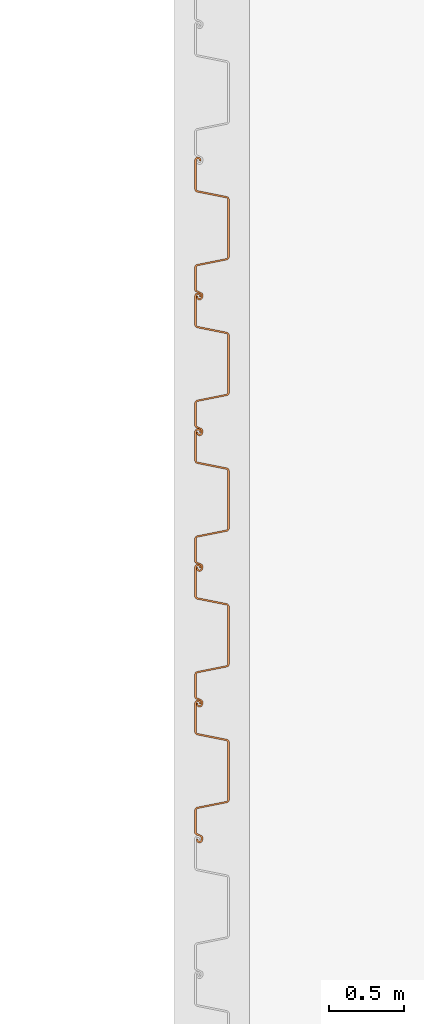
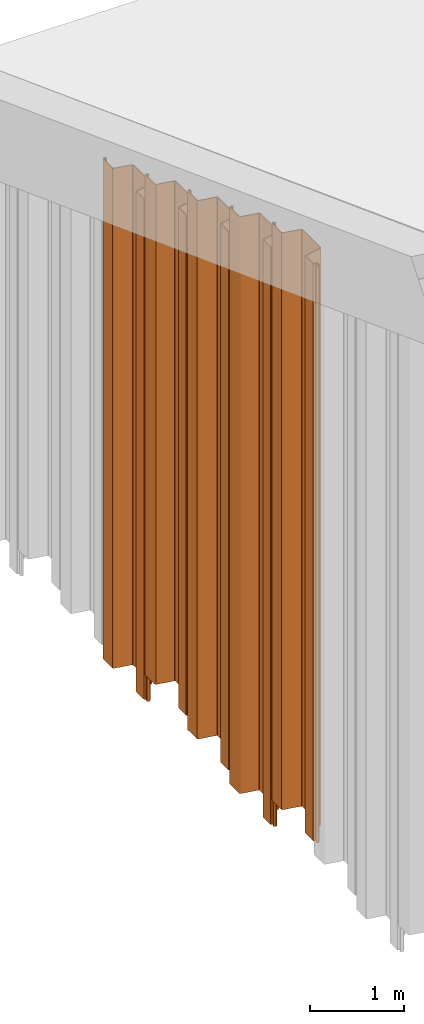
# One storey, part 12 of 15: 5 proxies.
"""IFC2X3 building model written with IfcOpenShell, lengths in millimetres."""

from ifc_helpers import new_model, entity, si_unit, converted_unit, derived_unit, direction, frame, frame_2d, origin, place, context, subcontext, project, spatial, polyline, circle_curve, parameter, trimmed, segment, composite_curve, outline, extrude, source, transform, mapped, material, type_object, type_shapes, element, save


model = new_model("IFC2X3")

# Units and contexts
model_context = context("Model", 3, precision=0.01, world=origin(), true_north=direction((6.12303176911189e-17, 1.0)))
body_context = subcontext(model_context, "Body", "Model", "MODEL_VIEW")
ifc_project = project(units=[si_unit("LENGTHUNIT", "METRE", prefix="MILLI"), si_unit("AREAUNIT", "SQUARE_METRE"), si_unit("VOLUMEUNIT", "CUBIC_METRE"), converted_unit("PLANEANGLEUNIT", "DEGREE", entity("IfcRatioMeasure", 0.0174532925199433), si_unit("PLANEANGLEUNIT", "RADIAN"), dimensions=[0, 0, 0, 0, 0, 0, 0]), si_unit("MASSUNIT", "GRAM", prefix="KILO"), derived_unit("MASSDENSITYUNIT", [(si_unit("MASSUNIT", "GRAM", prefix="KILO"), 1), (si_unit("LENGTHUNIT", "METRE"), -3)]), derived_unit("MOMENTOFINERTIAUNIT", [(si_unit("LENGTHUNIT", "METRE"), 4)]), si_unit("TIMEUNIT", "SECOND"), si_unit("FREQUENCYUNIT", "HERTZ"), si_unit("THERMODYNAMICTEMPERATUREUNIT", "DEGREE_CELSIUS"), derived_unit("THERMALTRANSMITTANCEUNIT", [(si_unit("MASSUNIT", "GRAM", prefix="KILO"), 1), (si_unit("THERMODYNAMICTEMPERATUREUNIT", "KELVIN"), -1), (si_unit("TIMEUNIT", "SECOND"), -3)]), derived_unit("VOLUMETRICFLOWRATEUNIT", [(si_unit("LENGTHUNIT", "METRE"), 3), (si_unit("TIMEUNIT", "SECOND"), -1)]), si_unit("ELECTRICCURRENTUNIT", "AMPERE"), si_unit("ELECTRICVOLTAGEUNIT", "VOLT"), si_unit("POWERUNIT", "WATT"), si_unit("FORCEUNIT", "NEWTON", prefix="KILO"), si_unit("ILLUMINANCEUNIT", "LUX"), si_unit("LUMINOUSFLUXUNIT", "LUMEN"), si_unit("LUMINOUSINTENSITYUNIT", "CANDELA"), derived_unit("USERDEFINED", [(si_unit("MASSUNIT", "GRAM", prefix="KILO"), -1), (si_unit("LENGTHUNIT", "METRE"), -2), (si_unit("TIMEUNIT", "SECOND"), 3), (si_unit("LUMINOUSFLUXUNIT", "LUMEN"), 1)]), derived_unit("LINEARVELOCITYUNIT", [(si_unit("LENGTHUNIT", "METRE"), 1), (si_unit("TIMEUNIT", "SECOND"), -1)]), si_unit("PRESSUREUNIT", "PASCAL"), derived_unit("USERDEFINED", [(si_unit("LENGTHUNIT", "METRE"), -2), (si_unit("MASSUNIT", "GRAM", prefix="KILO"), 1), (si_unit("TIMEUNIT", "SECOND"), -2)]), derived_unit("LINEARFORCEUNIT", [(si_unit("MASSUNIT", "GRAM", prefix="KILO"), 1), (si_unit("LENGTHUNIT", "METRE"), 1), (si_unit("TIMEUNIT", "SECOND"), -2), (si_unit("LENGTHUNIT", "METRE"), -1)]), derived_unit("PLANARFORCEUNIT", [(si_unit("MASSUNIT", "GRAM", prefix="KILO"), 1), (si_unit("LENGTHUNIT", "METRE"), 1), (si_unit("TIMEUNIT", "SECOND"), -2), (si_unit("LENGTHUNIT", "METRE"), -2)])], contexts=[model_context])

# Site, building, storey
site_placement = place(None, origin())
site = spatial("IfcSite", under=ifc_project, at=site_placement, Name="Default", CompositionType="ELEMENT")
building_placement = place(site_placement, origin())
building = spatial("IfcBuilding", under=site, at=building_placement, CompositionType="ELEMENT")
storey_placement = place(building_placement, frame((0.0, 0.0, 9500.0)))
storey = spatial("IfcBuildingStorey", under=building, at=storey_placement, Name="AP+9.500", CompositionType="ELEMENT", Elevation=9500.0)

# Proxies
ifc_material = material(Name="<Unnamed>")
building_element_proxy_type_1 = type_object("IfcBuildingElementProxyType", Name="鋼矢板10H型:鋼矢板10H型", PredefinedType="NOTDEFINED", material=ifc_material)
shared_shape_1 = source(origin(), body_context, "Body", "SweptSolid", [
    extrude(outline(composite_curve([segment(trimmed(circle_curve(frame_2d((85.3662976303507, 306.644432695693), x_axis=(0.422618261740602, 0.906307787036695)), 13.885714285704), [parameter(24.9999999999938)], [parameter(90.0000000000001)], True, "PARAMETER"), True, "CONTINUOUS"), segment(polyline([(72.7815666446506, 312.512789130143), (9.8129512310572, 177.476157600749)]), True, "CONTINUOUS"), segment(trimmed(circle_curve(frame_2d((29.3891994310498, 168.347603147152), x_axis=(0.422618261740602, 0.906307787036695)), 21.6), [parameter(90.0000000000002)], [parameter(168.69006752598)], True, "PARAMETER"), True, "CONTINUOUS"), segment(polyline([(16.598697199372, 150.941769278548), (175.329723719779, 34.2998683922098)]), True, "CONTINUOUS"), segment(trimmed(circle_curve(frame_2d((168.93447260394, 25.596951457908), x_axis=(0.422618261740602, 0.906307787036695)), 10.7999999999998), [parameter(270.0)], [parameter(348.690067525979)], True, "PARAMETER"), False, "CONTINUOUS"), segment(polyline([(178.722596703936, 21.0326742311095), (18.2974003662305, -323.000269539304)]), True, "CONTINUOUS"), segment(trimmed(circle_curve(frame_2d((8.50927626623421, -318.435992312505), x_axis=(0.422618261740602, 0.906307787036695)), 10.8), [parameter(191.30993247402)], [parameter(269.999999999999)], True, "PARAMETER"), False, "CONTINUOUS"), segment(polyline([(5.95324328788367, -328.929166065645), (-185.429973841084, -282.310113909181)]), True, "CONTINUOUS"), segment(trimmed(circle_curve(frame_2d((-190.542039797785, -303.296461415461), x_axis=(0.422618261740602, 0.906307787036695)), 21.6000000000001), [parameter(11.3099324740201)], [parameter(90.0000000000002)], True, "PARAMETER"), True, "CONTINUOUS"), segment(polyline([(-210.118287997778, -294.167906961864), (-290.330886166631, -466.184378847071)]), True, "CONTINUOUS"), segment(trimmed(circle_curve(frame_2d((-270.754637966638, -475.312933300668), x_axis=(0.422618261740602, 0.906307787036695)), 21.6), [parameter(90.0000000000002)], [parameter(269.999999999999)], True, "PARAMETER"), True, "CONTINUOUS"), segment(polyline([(-251.178389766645, -484.441487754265), (-249.065298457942, -479.909948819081)]), True, "CONTINUOUS"), segment(polyline([(-249.065298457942, -479.909948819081), (-258.853422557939, -475.345671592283)]), True, "CONTINUOUS"), segment(polyline([(-258.853422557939, -475.345671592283), (-260.966513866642, -479.877210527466)]), True, "CONTINUOUS"), segment(trimmed(circle_curve(frame_2d((-270.754637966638, -475.312933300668), x_axis=(0.422618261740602, 0.906307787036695)), 10.8), [parameter(90.0000000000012)], [parameter(270.0)], True, "PARAMETER"), False, "CONTINUOUS"), segment(polyline([(-280.542762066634, -470.748656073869), (-200.330163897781, -298.732184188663)]), True, "CONTINUOUS"), segment(trimmed(circle_curve(frame_2d((-190.542039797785, -303.296461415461), x_axis=(0.422618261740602, 0.906307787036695)), 10.8), [parameter(11.3099324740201)], [parameter(89.9999999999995)], True, "PARAMETER"), False, "CONTINUOUS"), segment(polyline([(-187.986006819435, -292.803287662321), (3.39721030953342, -339.422339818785)]), True, "CONTINUOUS"), segment(trimmed(circle_curve(frame_2d((8.50927626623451, -318.435992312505), x_axis=(0.422618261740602, 0.906307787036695)), 21.6), [parameter(191.30993247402)], [parameter(270.0)], True, "PARAMETER"), True, "CONTINUOUS"), segment(polyline([(28.0855244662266, -327.564546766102), (188.510720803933, 16.4683970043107)]), True, "CONTINUOUS"), segment(trimmed(circle_curve(frame_2d((168.93447260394, 25.5969514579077), x_axis=(0.422618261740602, 0.906307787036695)), 21.6), [parameter(270.0)], [parameter(348.69006752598)], True, "PARAMETER"), True, "CONTINUOUS"), segment(polyline([(181.724974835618, 43.0027853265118), (22.9939483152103, 159.644686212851)]), True, "CONTINUOUS"), segment(trimmed(circle_curve(frame_2d((29.3891994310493, 168.347603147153), x_axis=(0.422618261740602, 0.906307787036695)), 10.7999999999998), [parameter(89.9999999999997)], [parameter(168.690067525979)], True, "PARAMETER"), False, "CONTINUOUS"), segment(polyline([(19.6010753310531, 172.911880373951), (82.5696907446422, 307.948511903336)]), True, "CONTINUOUS"), segment(trimmed(circle_curve(frame_2d((85.3662976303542, 306.64443269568), x_axis=(0.422618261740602, 0.906307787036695)), 3.08571428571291), [parameter(25.0000000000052)], [parameter(90.0000000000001)], True, "PARAMETER"), False, "CONTINUOUS"), segment(polyline([(85.3662976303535, 309.730146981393), (122.220231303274, 309.730146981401)]), True, "CONTINUOUS"), segment(trimmed(circle_curve(frame_2d((122.220231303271, 323.615861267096), x_axis=(0.422618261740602, 0.906307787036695)), 13.8857142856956), [parameter(205.000000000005)], [parameter(270.0)], True, "PARAMETER"), True, "CONTINUOUS"), segment(polyline([(134.804962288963, 317.747504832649), (141.079261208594, 331.202782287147)]), True, "CONTINUOUS"), segment(trimmed(circle_curve(frame_2d((121.503013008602, 340.331336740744), x_axis=(0.422618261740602, 0.906307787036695)), 21.6), [parameter(270.0)], [parameter(90.0000000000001)], True, "PARAMETER"), True, "CONTINUOUS"), segment(polyline([(101.926764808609, 349.459891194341), (99.8136734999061, 344.928352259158)]), True, "CONTINUOUS"), segment(polyline([(99.8136734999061, 344.928352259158), (109.601797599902, 340.364075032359)]), True, "CONTINUOUS"), segment(polyline([(109.601797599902, 340.364075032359), (111.714888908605, 344.895613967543)]), True, "CONTINUOUS"), segment(trimmed(circle_curve(frame_2d((121.503013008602, 340.331336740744), x_axis=(0.422618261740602, 0.906307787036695)), 10.8), [parameter(270.0)], [parameter(89.9999999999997)], True, "PARAMETER"), False, "CONTINUOUS"), segment(polyline([(131.291137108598, 335.767059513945), (125.01683818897, 322.311782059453)]), True, "CONTINUOUS"), segment(trimmed(circle_curve(frame_2d((122.220231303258, 323.615861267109), x_axis=(0.422618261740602, 0.906307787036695)), 3.08571428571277), [parameter(204.999999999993)], [parameter(270.0)], True, "PARAMETER"), False, "CONTINUOUS"), segment(polyline([(122.220231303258, 320.530146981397), (85.3662976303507, 320.530146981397)]), True, "CONTINUOUS")], self_intersect=False)), frame((95.205667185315, -48.8888888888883, -6500.0), z_axis=(0.0, 0.0, -1.0), x_axis=(0.4226182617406, 0.906307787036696, 0.0)), (0.0, 0.0, -1.0), 6500.0),
])
type_shapes(building_element_proxy_type_1, [shared_shape_1])
for number, where, z_axis, x_axis in (
    (1, (89754.0, 18505.0, 2490.17384934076), (0.0, 0.0, 1.0), (0.0, -1.0, 0.0)),
    (2, (89754.0, 17605.0, 2826.31787385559), (0.0, 0.0, 1.0), (0.0, -1.0, 0.0)),
):
    element("IfcBuildingElementProxy", number, at=place(storey_placement, frame(where, z_axis=z_axis, x_axis=x_axis)), inside=storey, type_object=building_element_proxy_type_1, material=ifc_material, Name="鋼矢板10H型:鋼矢板10H型", ObjectType="鋼矢板10H型:鋼矢板10H型", context=body_context, shape_type="MappedRepresentation", body=[
        mapped(shared_shape_1, transform((0.0, 0.0, 0.0), scale=1.0)),
    ])
building_element_proxy_type_2 = type_object("IfcBuildingElementProxyType", Name="鋼矢板10H型:鋼矢板10H型", PredefinedType="NOTDEFINED", material=ifc_material)
shared_shape_2 = source(origin(), body_context, "Body", "SweptSolid", [
    extrude(outline(composite_curve([segment(trimmed(circle_curve(frame_2d((85.3662976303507, 306.644432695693), x_axis=(0.422618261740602, 0.906307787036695)), 13.885714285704), [parameter(24.9999999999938)], [parameter(90.0000000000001)], True, "PARAMETER"), True, "CONTINUOUS"), segment(polyline([(72.7815666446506, 312.512789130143), (9.8129512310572, 177.476157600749)]), True, "CONTINUOUS"), segment(trimmed(circle_curve(frame_2d((29.3891994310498, 168.347603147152), x_axis=(0.422618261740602, 0.906307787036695)), 21.6), [parameter(90.0000000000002)], [parameter(168.69006752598)], True, "PARAMETER"), True, "CONTINUOUS"), segment(polyline([(16.598697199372, 150.941769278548), (175.329723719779, 34.2998683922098)]), True, "CONTINUOUS"), segment(trimmed(circle_curve(frame_2d((168.93447260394, 25.596951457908), x_axis=(0.422618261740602, 0.906307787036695)), 10.7999999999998), [parameter(270.0)], [parameter(348.690067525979)], True, "PARAMETER"), False, "CONTINUOUS"), segment(polyline([(178.722596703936, 21.0326742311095), (18.2974003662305, -323.000269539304)]), True, "CONTINUOUS"), segment(trimmed(circle_curve(frame_2d((8.50927626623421, -318.435992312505), x_axis=(0.422618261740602, 0.906307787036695)), 10.8), [parameter(191.30993247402)], [parameter(269.999999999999)], True, "PARAMETER"), False, "CONTINUOUS"), segment(polyline([(5.95324328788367, -328.929166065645), (-185.429973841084, -282.310113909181)]), True, "CONTINUOUS"), segment(trimmed(circle_curve(frame_2d((-190.542039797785, -303.296461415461), x_axis=(0.422618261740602, 0.906307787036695)), 21.6000000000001), [parameter(11.3099324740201)], [parameter(90.0000000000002)], True, "PARAMETER"), True, "CONTINUOUS"), segment(polyline([(-210.118287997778, -294.167906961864), (-290.330886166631, -466.184378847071)]), True, "CONTINUOUS"), segment(trimmed(circle_curve(frame_2d((-270.754637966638, -475.312933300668), x_axis=(0.422618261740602, 0.906307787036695)), 21.6), [parameter(90.0000000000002)], [parameter(269.999999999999)], True, "PARAMETER"), True, "CONTINUOUS"), segment(polyline([(-251.178389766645, -484.441487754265), (-249.065298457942, -479.909948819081)]), True, "CONTINUOUS"), segment(polyline([(-249.065298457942, -479.909948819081), (-258.853422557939, -475.345671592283)]), True, "CONTINUOUS"), segment(polyline([(-258.853422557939, -475.345671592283), (-260.966513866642, -479.877210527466)]), True, "CONTINUOUS"), segment(trimmed(circle_curve(frame_2d((-270.754637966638, -475.312933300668), x_axis=(0.422618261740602, 0.906307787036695)), 10.8), [parameter(90.0000000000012)], [parameter(270.0)], True, "PARAMETER"), False, "CONTINUOUS"), segment(polyline([(-280.542762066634, -470.748656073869), (-200.330163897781, -298.732184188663)]), True, "CONTINUOUS"), segment(trimmed(circle_curve(frame_2d((-190.542039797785, -303.296461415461), x_axis=(0.422618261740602, 0.906307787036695)), 10.8), [parameter(11.3099324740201)], [parameter(89.9999999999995)], True, "PARAMETER"), False, "CONTINUOUS"), segment(polyline([(-187.986006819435, -292.803287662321), (3.39721030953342, -339.422339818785)]), True, "CONTINUOUS"), segment(trimmed(circle_curve(frame_2d((8.50927626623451, -318.435992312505), x_axis=(0.422618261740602, 0.906307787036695)), 21.6), [parameter(191.30993247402)], [parameter(270.0)], True, "PARAMETER"), True, "CONTINUOUS"), segment(polyline([(28.0855244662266, -327.564546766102), (188.510720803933, 16.4683970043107)]), True, "CONTINUOUS"), segment(trimmed(circle_curve(frame_2d((168.93447260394, 25.5969514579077), x_axis=(0.422618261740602, 0.906307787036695)), 21.6), [parameter(270.0)], [parameter(348.69006752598)], True, "PARAMETER"), True, "CONTINUOUS"), segment(polyline([(181.724974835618, 43.0027853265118), (22.9939483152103, 159.644686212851)]), True, "CONTINUOUS"), segment(trimmed(circle_curve(frame_2d((29.3891994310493, 168.347603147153), x_axis=(0.422618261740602, 0.906307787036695)), 10.7999999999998), [parameter(89.9999999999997)], [parameter(168.690067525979)], True, "PARAMETER"), False, "CONTINUOUS"), segment(polyline([(19.6010753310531, 172.911880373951), (82.5696907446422, 307.948511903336)]), True, "CONTINUOUS"), segment(trimmed(circle_curve(frame_2d((85.3662976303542, 306.64443269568), x_axis=(0.422618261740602, 0.906307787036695)), 3.08571428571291), [parameter(25.0000000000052)], [parameter(90.0000000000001)], True, "PARAMETER"), False, "CONTINUOUS"), segment(polyline([(85.3662976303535, 309.730146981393), (122.220231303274, 309.730146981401)]), True, "CONTINUOUS"), segment(trimmed(circle_curve(frame_2d((122.220231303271, 323.615861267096), x_axis=(0.422618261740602, 0.906307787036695)), 13.8857142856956), [parameter(205.000000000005)], [parameter(270.0)], True, "PARAMETER"), True, "CONTINUOUS"), segment(polyline([(134.804962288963, 317.747504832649), (141.079261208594, 331.202782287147)]), True, "CONTINUOUS"), segment(trimmed(circle_curve(frame_2d((121.503013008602, 340.331336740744), x_axis=(0.422618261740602, 0.906307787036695)), 21.6), [parameter(270.0)], [parameter(90.0000000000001)], True, "PARAMETER"), True, "CONTINUOUS"), segment(polyline([(101.926764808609, 349.459891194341), (99.8136734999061, 344.928352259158)]), True, "CONTINUOUS"), segment(polyline([(99.8136734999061, 344.928352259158), (109.601797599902, 340.364075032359)]), True, "CONTINUOUS"), segment(polyline([(109.601797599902, 340.364075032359), (111.714888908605, 344.895613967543)]), True, "CONTINUOUS"), segment(trimmed(circle_curve(frame_2d((121.503013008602, 340.331336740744), x_axis=(0.422618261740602, 0.906307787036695)), 10.8), [parameter(270.0)], [parameter(89.9999999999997)], True, "PARAMETER"), False, "CONTINUOUS"), segment(polyline([(131.291137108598, 335.767059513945), (125.01683818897, 322.311782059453)]), True, "CONTINUOUS"), segment(trimmed(circle_curve(frame_2d((122.220231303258, 323.615861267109), x_axis=(0.422618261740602, 0.906307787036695)), 3.08571428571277), [parameter(204.999999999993)], [parameter(270.0)], True, "PARAMETER"), False, "CONTINUOUS"), segment(polyline([(122.220231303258, 320.530146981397), (85.3662976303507, 320.530146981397)]), True, "CONTINUOUS")], self_intersect=False)), frame((95.205667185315, -48.8888888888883, -7000.0), z_axis=(0.0, 0.0, -1.0), x_axis=(0.4226182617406, 0.906307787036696, 0.0)), (0.0, 0.0, -1.0), 7000.0),
])
type_shapes(building_element_proxy_type_2, [shared_shape_2])
proxy_placement = place(storey_placement, frame((89754.0, 16705.0, 3162.46189837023), z_axis=(0.0, 0.0, 1.0), x_axis=(0.0, -1.0, 0.0)))
element("IfcBuildingElementProxy", 3, at=proxy_placement, inside=storey, type_object=building_element_proxy_type_2, material=ifc_material, Name="鋼矢板10H型:鋼矢板10H型", ObjectType="鋼矢板10H型:鋼矢板10H型", context=body_context, shape_type="MappedRepresentation", body=[
    mapped(shared_shape_2, transform((0.0, 0.0, 0.0), scale=1.0)),
])
building_element_proxy_type_3 = type_object("IfcBuildingElementProxyType", Name="鋼矢板10H型:鋼矢板10H型", PredefinedType="NOTDEFINED", material=ifc_material)
shared_shape_3 = source(origin(), body_context, "Body", "SweptSolid", [
    extrude(outline(composite_curve([segment(trimmed(circle_curve(frame_2d((85.3662976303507, 306.644432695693), x_axis=(0.422618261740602, 0.906307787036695)), 13.885714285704), [parameter(24.9999999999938)], [parameter(90.0000000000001)], True, "PARAMETER"), True, "CONTINUOUS"), segment(polyline([(72.7815666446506, 312.512789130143), (9.8129512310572, 177.476157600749)]), True, "CONTINUOUS"), segment(trimmed(circle_curve(frame_2d((29.3891994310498, 168.347603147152), x_axis=(0.422618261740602, 0.906307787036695)), 21.6), [parameter(90.0000000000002)], [parameter(168.69006752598)], True, "PARAMETER"), True, "CONTINUOUS"), segment(polyline([(16.598697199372, 150.941769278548), (175.329723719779, 34.2998683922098)]), True, "CONTINUOUS"), segment(trimmed(circle_curve(frame_2d((168.93447260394, 25.596951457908), x_axis=(0.422618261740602, 0.906307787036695)), 10.7999999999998), [parameter(270.0)], [parameter(348.690067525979)], True, "PARAMETER"), False, "CONTINUOUS"), segment(polyline([(178.722596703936, 21.0326742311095), (18.2974003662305, -323.000269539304)]), True, "CONTINUOUS"), segment(trimmed(circle_curve(frame_2d((8.50927626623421, -318.435992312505), x_axis=(0.422618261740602, 0.906307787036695)), 10.8), [parameter(191.30993247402)], [parameter(269.999999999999)], True, "PARAMETER"), False, "CONTINUOUS"), segment(polyline([(5.95324328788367, -328.929166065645), (-185.429973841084, -282.310113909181)]), True, "CONTINUOUS"), segment(trimmed(circle_curve(frame_2d((-190.542039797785, -303.296461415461), x_axis=(0.422618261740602, 0.906307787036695)), 21.6000000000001), [parameter(11.3099324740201)], [parameter(90.0000000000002)], True, "PARAMETER"), True, "CONTINUOUS"), segment(polyline([(-210.118287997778, -294.167906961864), (-290.330886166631, -466.184378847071)]), True, "CONTINUOUS"), segment(trimmed(circle_curve(frame_2d((-270.754637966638, -475.312933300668), x_axis=(0.422618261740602, 0.906307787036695)), 21.6), [parameter(90.0000000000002)], [parameter(269.999999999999)], True, "PARAMETER"), True, "CONTINUOUS"), segment(polyline([(-251.178389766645, -484.441487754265), (-249.065298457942, -479.909948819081)]), True, "CONTINUOUS"), segment(polyline([(-249.065298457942, -479.909948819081), (-258.853422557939, -475.345671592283)]), True, "CONTINUOUS"), segment(polyline([(-258.853422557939, -475.345671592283), (-260.966513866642, -479.877210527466)]), True, "CONTINUOUS"), segment(trimmed(circle_curve(frame_2d((-270.754637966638, -475.312933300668), x_axis=(0.422618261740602, 0.906307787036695)), 10.8), [parameter(90.0000000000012)], [parameter(270.0)], True, "PARAMETER"), False, "CONTINUOUS"), segment(polyline([(-280.542762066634, -470.748656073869), (-200.330163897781, -298.732184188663)]), True, "CONTINUOUS"), segment(trimmed(circle_curve(frame_2d((-190.542039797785, -303.296461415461), x_axis=(0.422618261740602, 0.906307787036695)), 10.8), [parameter(11.3099324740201)], [parameter(89.9999999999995)], True, "PARAMETER"), False, "CONTINUOUS"), segment(polyline([(-187.986006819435, -292.803287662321), (3.39721030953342, -339.422339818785)]), True, "CONTINUOUS"), segment(trimmed(circle_curve(frame_2d((8.50927626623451, -318.435992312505), x_axis=(0.422618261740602, 0.906307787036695)), 21.6), [parameter(191.30993247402)], [parameter(270.0)], True, "PARAMETER"), True, "CONTINUOUS"), segment(polyline([(28.0855244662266, -327.564546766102), (188.510720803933, 16.4683970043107)]), True, "CONTINUOUS"), segment(trimmed(circle_curve(frame_2d((168.93447260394, 25.5969514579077), x_axis=(0.422618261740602, 0.906307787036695)), 21.6), [parameter(270.0)], [parameter(348.69006752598)], True, "PARAMETER"), True, "CONTINUOUS"), segment(polyline([(181.724974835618, 43.0027853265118), (22.9939483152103, 159.644686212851)]), True, "CONTINUOUS"), segment(trimmed(circle_curve(frame_2d((29.3891994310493, 168.347603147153), x_axis=(0.422618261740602, 0.906307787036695)), 10.7999999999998), [parameter(89.9999999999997)], [parameter(168.690067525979)], True, "PARAMETER"), False, "CONTINUOUS"), segment(polyline([(19.6010753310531, 172.911880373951), (82.5696907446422, 307.948511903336)]), True, "CONTINUOUS"), segment(trimmed(circle_curve(frame_2d((85.3662976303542, 306.64443269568), x_axis=(0.422618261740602, 0.906307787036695)), 3.08571428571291), [parameter(25.0000000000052)], [parameter(90.0000000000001)], True, "PARAMETER"), False, "CONTINUOUS"), segment(polyline([(85.3662976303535, 309.730146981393), (122.220231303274, 309.730146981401)]), True, "CONTINUOUS"), segment(trimmed(circle_curve(frame_2d((122.220231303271, 323.615861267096), x_axis=(0.422618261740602, 0.906307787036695)), 13.8857142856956), [parameter(205.000000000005)], [parameter(270.0)], True, "PARAMETER"), True, "CONTINUOUS"), segment(polyline([(134.804962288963, 317.747504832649), (141.079261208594, 331.202782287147)]), True, "CONTINUOUS"), segment(trimmed(circle_curve(frame_2d((121.503013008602, 340.331336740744), x_axis=(0.422618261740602, 0.906307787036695)), 21.6), [parameter(270.0)], [parameter(90.0000000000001)], True, "PARAMETER"), True, "CONTINUOUS"), segment(polyline([(101.926764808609, 349.459891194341), (99.8136734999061, 344.928352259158)]), True, "CONTINUOUS"), segment(polyline([(99.8136734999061, 344.928352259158), (109.601797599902, 340.364075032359)]), True, "CONTINUOUS"), segment(polyline([(109.601797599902, 340.364075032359), (111.714888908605, 344.895613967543)]), True, "CONTINUOUS"), segment(trimmed(circle_curve(frame_2d((121.503013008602, 340.331336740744), x_axis=(0.422618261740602, 0.906307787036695)), 10.8), [parameter(270.0)], [parameter(89.9999999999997)], True, "PARAMETER"), False, "CONTINUOUS"), segment(polyline([(131.291137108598, 335.767059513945), (125.01683818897, 322.311782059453)]), True, "CONTINUOUS"), segment(trimmed(circle_curve(frame_2d((122.220231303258, 323.615861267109), x_axis=(0.422618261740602, 0.906307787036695)), 3.08571428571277), [parameter(204.999999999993)], [parameter(270.0)], True, "PARAMETER"), False, "CONTINUOUS"), segment(polyline([(122.220231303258, 320.530146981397), (85.3662976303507, 320.530146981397)]), True, "CONTINUOUS")], self_intersect=False)), frame((95.205667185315, -48.8888888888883, -7500.0), z_axis=(0.0, 0.0, -1.0), x_axis=(0.4226182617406, 0.906307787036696, 0.0)), (0.0, 0.0, -1.0), 7500.0),
])
type_shapes(building_element_proxy_type_3, [shared_shape_3])
for number, where, z_axis, x_axis in (
    (4, (89754.0, 15805.0, 3498.60592288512), (0.0, 0.0, 1.0), (0.0, -1.0, 0.0)),
    (5, (89754.0, 14905.0, 3834.74994739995), (0.0, 0.0, 1.0), (0.0, -1.0, 0.0)),
):
    element("IfcBuildingElementProxy", number, at=place(storey_placement, frame(where, z_axis=z_axis, x_axis=x_axis)), inside=storey, type_object=building_element_proxy_type_3, material=ifc_material, Name="鋼矢板10H型:鋼矢板10H型", ObjectType="鋼矢板10H型:鋼矢板10H型", context=body_context, shape_type="MappedRepresentation", body=[
        mapped(shared_shape_3, transform((0.0, 0.0, 0.0), scale=1.0)),
    ])

save(model, "model.ifc")
